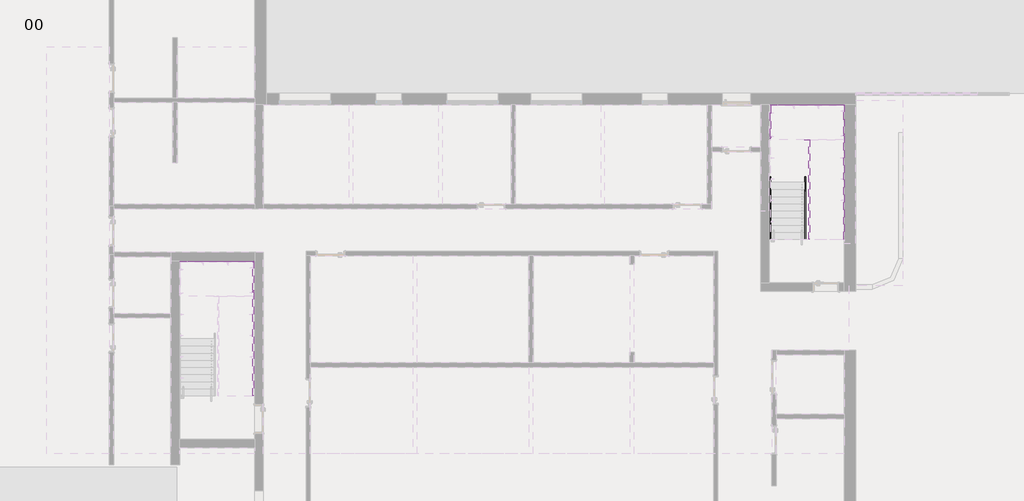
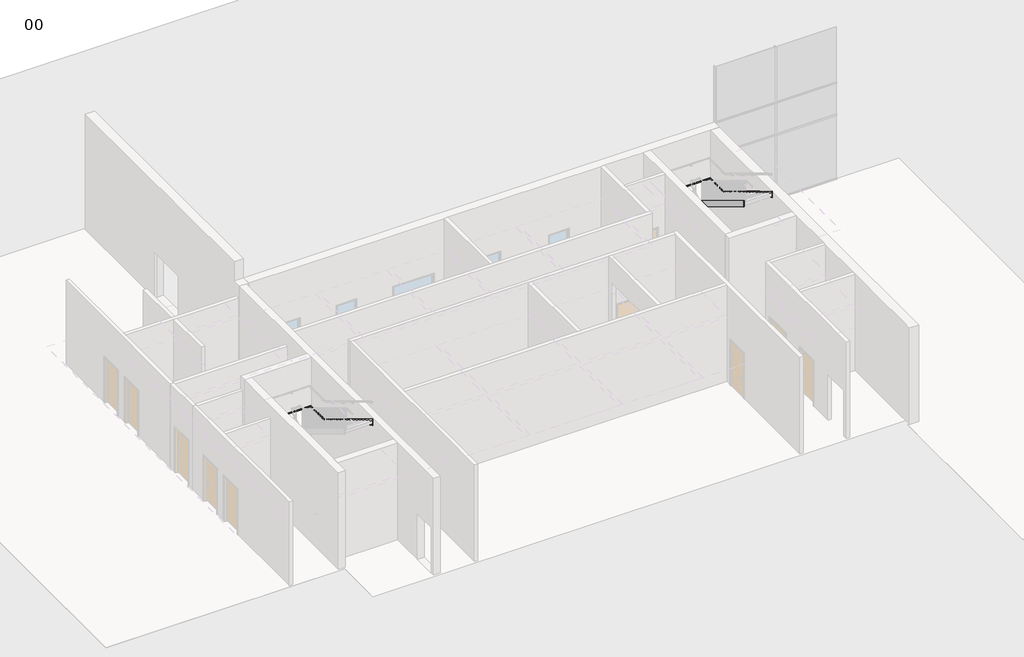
# One storey, part 11 of 11: 11 members.
"""IFC4 building model written with IfcOpenShell, lengths in millimetres."""

from ifc_helpers import new_model, si_unit, frame, origin, place, context, project, spatial, polyline, outline, extrude, faceted_brep, element, save

model = new_model("IFC4")

# Units and contexts
model_context = context("Model", 3, world=origin())
ifc_project = project(units=[si_unit("LENGTHUNIT", "METRE", prefix="MILLI")], contexts=[model_context])

# Site, building, storey
site = spatial("IfcSite", under=ifc_project)
building = spatial("IfcBuilding", under=site)
storey = spatial("IfcBuildingStorey", under=building, Name="00", Elevation=0.0)

# Members
placement = place(None, origin())
element("IfcMember", 1, ObjectType="Stringer_25x250mm_Material", at=placement, inside=storey, context=model_context, shape_type="SweptSolid", body=[
    extrude(outline(polyline([(-388061.939179, 2300.0), (-388131.1851702, 2050.0), (-391774.0026386, 4235.6904811), (-391774.0026386, 4527.2380758), (-388061.939179, 2300.0)])), frame((424951.3206883, 0.0, 0.0), z_axis=(1.0, 0.0, 0.0), x_axis=(0.0, 1.0, 0.0)), (0.0, 0.0, 1.0), 25.0),
])
element("IfcMember", 2, ObjectType="Stringer_25x250mm_Material", at=placement, inside=storey, context=model_context, shape_type="Brep", body=[
    faceted_brep([(424951.3206883, -388061.939179, 2300.0), (424976.3206883, -388061.939179, 2300.0), (424976.3206883, -387049.0026386, 2300.0), (424951.3206883, -387074.0026386, 2300.0), (424951.3206883, -388131.1851702, 2050.0), (424951.3206883, -387074.0026386, 2050.0), (424976.3206883, -388131.1851702, 2050.0), (424976.3206883, -387049.0026386, 2050.0)], [[[0, 1, 2, 3]], [[4, 0, 3, 5]], [[6, 4, 5, 7]], [[1, 6, 7, 2]], [[1, 0, 4, 6]], [[2, 7, 5, 3]]]),
])
element("IfcMember", 3, ObjectType="Stringer_25x250mm_Material", at=placement, inside=storey, context=model_context, shape_type="SweptSolid", body=[
    extrude(outline(polyline([(424976.3206883, -387049.0026386), (424951.3206883, -387074.0026386), (422401.3206883, -387074.0026386), (422376.3206883, -387049.0026386), (424976.3206883, -387049.0026386)])), frame((0.0, 0.0, 2050.0), z_axis=(0.0, 0.0, 1.0), x_axis=(1.0, 0.0, 0.0)), (0.0, 0.0, 1.0), 250.0),
])
element("IfcMember", 4, ObjectType="Stringer_25x250mm_Material", at=placement, inside=storey, context=model_context, shape_type="SweptSolid", body=[
    extrude(outline(polyline([(-386275.0026386, 0.0), (-386275.0026386, 177.2380758), (-382737.0660983, 2300.0), (-382667.820107, 2050.0), (-386084.4867737, 0.0), (-386275.0026386, 0.0)])), frame((443122.3206883, 0.0, 0.0), z_axis=(1.0, 0.0, 0.0), x_axis=(0.0, 1.0, 0.0)), (0.0, 0.0, 1.0), 25.0),
])
element("IfcMember", 5, ObjectType="Stringer_25x250mm_Material", at=placement, inside=storey, context=model_context, shape_type="SweptSolid", body=[
    extrude(outline(polyline([(-386275.0026386, 0.0), (-386275.0026386, 177.2380758), (-382800.0026386, 2262.2380758), (-382800.0026386, 1970.6904811), (-386084.4867737, 0.0), (-386275.0026386, 0.0)])), frame((444347.3206883, 0.0, 0.0), z_axis=(1.0, 0.0, 0.0), x_axis=(0.0, 1.0, 0.0)), (0.0, 0.0, 1.0), 25.0),
])
element("IfcMember", 6, ObjectType="Stringer_25x250mm_Material", at=placement, inside=storey, context=model_context, shape_type="SweptSolid", body=[
    extrude(outline(polyline([(-382562.939179, 2300.0), (-382632.1851702, 2050.0), (-386275.0026386, 4235.6904811), (-386275.0026386, 4527.2380758), (-382562.939179, 2300.0)])), frame((445713.3206883, 0.0, 0.0), z_axis=(1.0, 0.0, 0.0), x_axis=(0.0, 1.0, 0.0)), (0.0, 0.0, 1.0), 25.0),
])
element("IfcMember", 7, ObjectType="Stringer_25x250mm_Material", at=placement, inside=storey, context=model_context, shape_type="SweptSolid", body=[
    extrude(outline(polyline([(-382775.0026386, 2427.2380758), (-382775.0026386, 2135.6904811), (-386275.0026386, 4235.6904811), (-386275.0026386, 4527.2380758), (-382775.0026386, 2427.2380758)])), frame((444488.3206883, 0.0, 0.0), z_axis=(1.0, 0.0, 0.0), x_axis=(0.0, 1.0, 0.0)), (0.0, 0.0, 1.0), 25.0),
])
element("IfcMember", 8, ObjectType="Stringer_25x250mm_Material", at=placement, inside=storey, context=model_context, shape_type="Brep", body=[
    faceted_brep([(445713.3206883, -382562.939179, 2300.0), (445738.3206883, -382562.939179, 2300.0), (445738.3206883, -381550.0026386, 2300.0), (445713.3206883, -381575.0026386, 2300.0), (445713.3206883, -382632.1851702, 2050.0), (445713.3206883, -381575.0026386, 2050.0), (445738.3206883, -382632.1851702, 2050.0), (445738.3206883, -381550.0026386, 2050.0)], [[[0, 1, 2, 3]], [[4, 0, 3, 5]], [[6, 4, 5, 7]], [[1, 6, 7, 2]], [[1, 0, 4, 6]], [[2, 7, 5, 3]]]),
])
element("IfcMember", 9, ObjectType="Stringer_25x250mm_Material", at=placement, inside=storey, context=model_context, shape_type="SweptSolid", body=[
    extrude(outline(polyline([(445738.3206883, -381550.0026386), (445713.3206883, -381575.0026386), (443147.3206883, -381575.0026386), (443122.3206883, -381550.0026386), (445738.3206883, -381550.0026386)])), frame((0.0, 0.0, 2050.0), z_axis=(0.0, 0.0, 1.0), x_axis=(1.0, 0.0, 0.0)), (0.0, 0.0, 1.0), 250.0),
])
element("IfcMember", 10, ObjectType="Stringer_25x250mm_Material", at=placement, inside=storey, context=model_context, shape_type="Brep", body=[
    faceted_brep([(443147.3206883, -381575.0026386, 2300.0), (443122.3206883, -381550.0026386, 2300.0), (443122.3206883, -382737.0660983, 2300.0), (443147.3206883, -382737.0660983, 2300.0), (443147.3206883, -381575.0026386, 2050.0), (443147.3206883, -382667.820107, 2050.0), (443122.3206883, -381550.0026386, 2050.0), (443122.3206883, -382667.820107, 2050.0)], [[[0, 1, 2, 3]], [[4, 0, 3, 5]], [[6, 4, 5, 7]], [[1, 6, 7, 2]], [[1, 0, 4, 6]], [[2, 7, 5, 3]]]),
])
element("IfcMember", 11, ObjectType="Stringer_25x250mm_Material", at=placement, inside=storey, context=model_context, shape_type="SweptSolid", body=[
    extrude(outline(polyline([(444347.3206883, -382800.0026386), (444347.3206883, -382775.0026386), (444488.3206883, -382775.0026386), (444488.3206883, -382800.0026386), (444347.3206883, -382800.0026386)])), frame((0.0, 0.0, 2050.0), z_axis=(0.0, 0.0, 1.0), x_axis=(1.0, 0.0, 0.0)), (0.0, 0.0, 1.0), 250.0),
])

save(model, "model.ifc")
